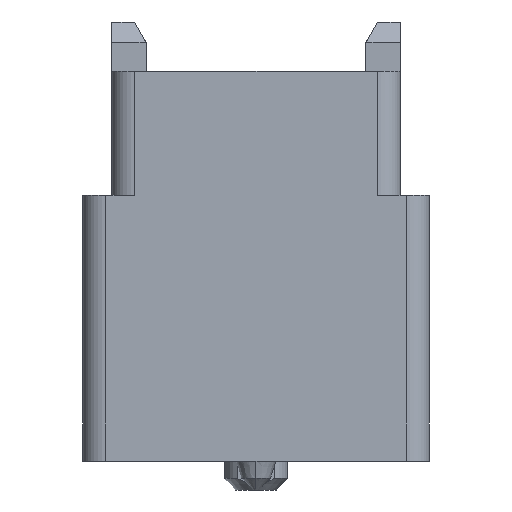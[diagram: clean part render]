
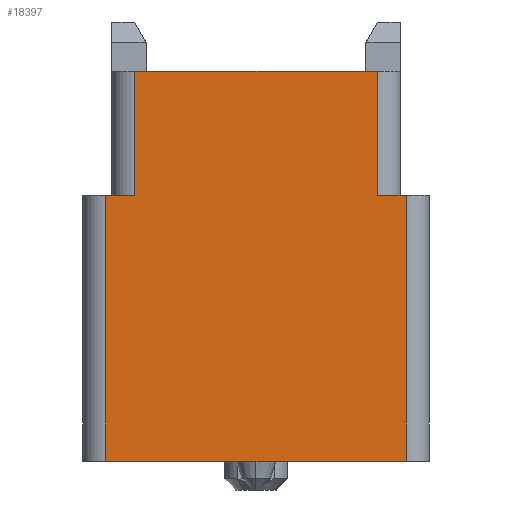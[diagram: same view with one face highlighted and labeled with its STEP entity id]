
A CAD part, left-side view. The second image highlights one B-rep face of the part: STEP entity #18397.
In plain terms, the highlighted planar face has unit normal (-1, 0, 0).
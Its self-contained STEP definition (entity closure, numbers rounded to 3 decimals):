
#134=DIRECTION('',(0.,0.,1.));
#135=VECTOR('',#134,2.15);
#136=CARTESIAN_POINT('',(-14.9,-2.1,-2.15));
#137=LINE('',#136,#135);
#138=DIRECTION('',(0.,0.,-1.));
#139=VECTOR('',#138,4.6);
#140=CARTESIAN_POINT('',(-14.9,-2.6,-2.15));
#141=LINE('',#140,#139);
#142=DIRECTION('',(0.,1.,0.));
#143=VECTOR('',#142,5.2);
#144=CARTESIAN_POINT('',(-14.9,-2.6,-6.75));
#145=LINE('',#144,#143);
#146=DIRECTION('',(0.,0.,-1.));
#147=VECTOR('',#146,4.6);
#148=CARTESIAN_POINT('',(-14.9,2.6,-2.15));
#149=LINE('',#148,#147);
#150=DIRECTION('',(0.,0.,-1.));
#151=VECTOR('',#150,2.15);
#152=CARTESIAN_POINT('',(-14.9,2.1,0.));
#153=LINE('',#152,#151);
#164=DIRECTION('',(0.,1.,0.));
#165=VECTOR('',#164,4.2);
#166=CARTESIAN_POINT('',(-14.9,-2.1,0.));
#167=LINE('',#166,#165);
#366=DIRECTION('',(0.,1.,0.));
#367=VECTOR('',#366,0.5);
#368=CARTESIAN_POINT('',(-14.9,-2.6,-2.15));
#369=LINE('',#368,#367);
#383=DIRECTION('',(0.,1.,0.));
#384=VECTOR('',#383,0.5);
#385=CARTESIAN_POINT('',(-14.9,2.1,-2.15));
#386=LINE('',#385,#384);
#14210=CARTESIAN_POINT('',(-14.9,-2.1,0.));
#14212=VERTEX_POINT('',#14210);
#14216=CARTESIAN_POINT('',(-14.9,-2.1,-2.15));
#14217=VERTEX_POINT('',#14216);
#14219=CARTESIAN_POINT('',(-14.9,-2.6,-6.75));
#14221=VERTEX_POINT('',#14219);
#14222=CARTESIAN_POINT('',(-14.9,-2.6,-2.15));
#14223=VERTEX_POINT('',#14222);
#14230=CARTESIAN_POINT('',(-14.9,2.1,0.));
#14231=VERTEX_POINT('',#14230);
#14232=CARTESIAN_POINT('',(-14.9,2.1,-2.15));
#14233=VERTEX_POINT('',#14232);
#14234=CARTESIAN_POINT('',(-14.9,2.6,-6.75));
#14236=VERTEX_POINT('',#14234);
#14240=CARTESIAN_POINT('',(-14.9,2.6,-2.15));
#14241=VERTEX_POINT('',#14240);
#18374=CARTESIAN_POINT('',(-14.9,0.,0.));
#18375=DIRECTION('',(-1.,0.,0.));
#18376=DIRECTION('',(0.,-1.,0.));
#18377=AXIS2_PLACEMENT_3D('',#18374,#18375,#18376);
#18378=PLANE('',#18377);
#18380=ORIENTED_EDGE('',*,*,#18379,.F.);
#18382=ORIENTED_EDGE('',*,*,#18381,.F.);
#18384=ORIENTED_EDGE('',*,*,#18383,.T.);
#18386=ORIENTED_EDGE('',*,*,#18385,.T.);
#18388=ORIENTED_EDGE('',*,*,#18387,.F.);
#18390=ORIENTED_EDGE('',*,*,#18389,.F.);
#18392=ORIENTED_EDGE('',*,*,#18391,.F.);
#18394=ORIENTED_EDGE('',*,*,#18393,.F.);
#18395=EDGE_LOOP('',(#18380,#18382,#18384,#18386,#18388,#18390,#18392,#18394));
#18396=FACE_OUTER_BOUND('',#18395,.F.);
#18379=EDGE_CURVE('',#14217,#14212,#137,.T.);
#18381=EDGE_CURVE('',#14223,#14217,#369,.T.);
#18383=EDGE_CURVE('',#14223,#14221,#141,.T.);
#18385=EDGE_CURVE('',#14221,#14236,#145,.T.);
#18387=EDGE_CURVE('',#14241,#14236,#149,.T.);
#18389=EDGE_CURVE('',#14233,#14241,#386,.T.);
#18391=EDGE_CURVE('',#14231,#14233,#153,.T.);
#18393=EDGE_CURVE('',#14212,#14231,#167,.T.);
#18397=ADVANCED_FACE('',(#18396),#18378,.T.);
